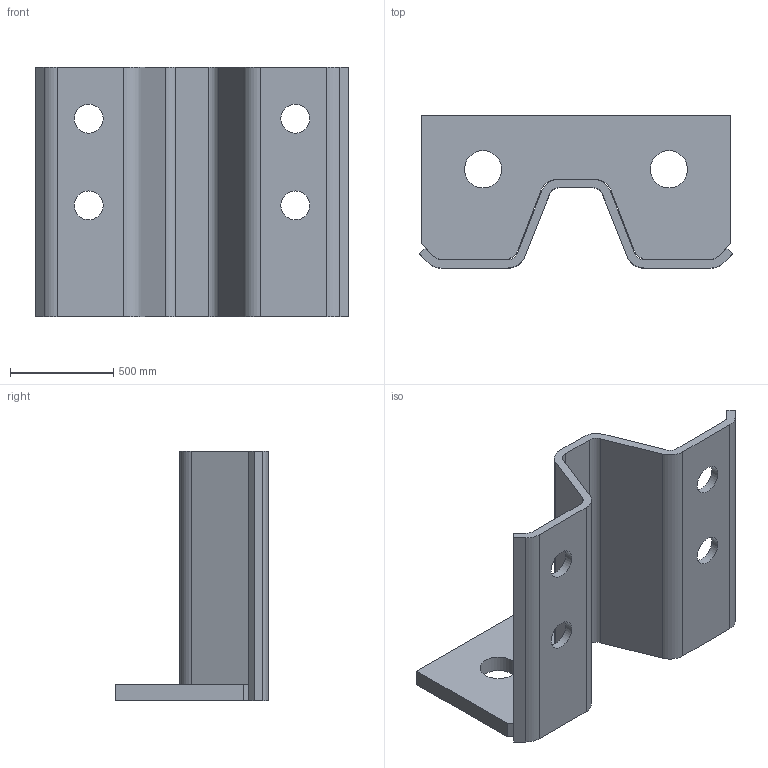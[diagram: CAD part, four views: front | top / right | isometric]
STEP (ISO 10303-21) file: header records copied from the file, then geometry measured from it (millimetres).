
FILE_DESCRIPTION(/* description */ (''),/* implementation_level */ '2;1');
FILE_NAME(/* name */ 'ZB140W90.stp',/* time_stamp */ '2024-10-31T15:19:08+01:00',/* author */ ('woriedl'),/* organization */ (''),/* preprocessor_version */ 'ST-DEVELOPER v20',/* originating_system */ 'AutoCAD Mechanical',/* authorisation */ '');
FILE_SCHEMA (('AUTOMOTIVE_DESIGN { 1 0 10303 214 3 1 1 }'));
Length unit declared in the file: centimetre
Products named in the file (3): Product; ZC140; W90
Assembly tree (2 placements, depth 2):
  Product
    ZC140
    W90
Bounding box: 1517.2 x 740 x 1210 mm (x, y, z)
Volume: 160574366.6 mm3; surface area: 7196421.7 mm2
Topology: 2 solids, 2 shells, 54 faces, 150 edges, 100 vertices
Faces by surface type: plane 30, cylinder 24
Full cylindrical faces by diameter (mm): 140 x4, 180 x2
Entity records: 1830 total; most frequent: DIRECTION 316, CARTESIAN_POINT 309, ORIENTED_EDGE 300, EDGE_CURVE 150, AXIS2_PLACEMENT_3D 107, LINE 102, VECTOR 102, VERTEX_POINT 100
